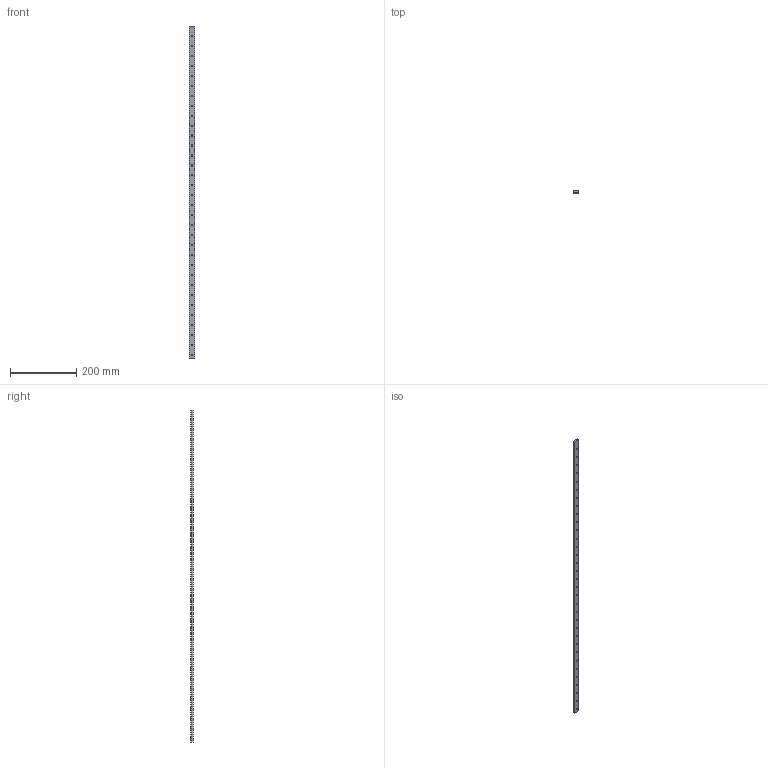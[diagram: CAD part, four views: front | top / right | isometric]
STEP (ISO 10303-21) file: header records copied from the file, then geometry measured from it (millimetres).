
FILE_DESCRIPTION (( 'STEP AP214' ), '1' );
FILE_NAME ('2.0018 Lineaarijohde MGW9 1000 mm.STEP', '2024-04-22T10:20:57', ( '' ), ( '' ), 'SwSTEP 2.0', 'SolidWorks 2024', '' );
FILE_SCHEMA (( 'AUTOMOTIVE_DESIGN' ));
Length unit declared in the file: millimetre
Products named in the file (1): 2.0018 Lineaarijohde MGW9 1000 mm
Bounding box: 18 x 7 x 1000 mm (x, y, z)
Volume: 118301.5 mm3; surface area: 54637.7 mm2
Topology: 1 solids, 1 shells, 180 faces, 435 edges, 290 vertices
Faces by surface type: cylinder 135, plane 45
Entity records: 5564 total; most frequent: DIRECTION 1067, CARTESIAN_POINT 906, ORIENTED_EDGE 870, AXIS2_PLACEMENT_3D 451, EDGE_CURVE 435, VERTEX_POINT 290, EDGE_LOOP 279, CIRCLE 270
